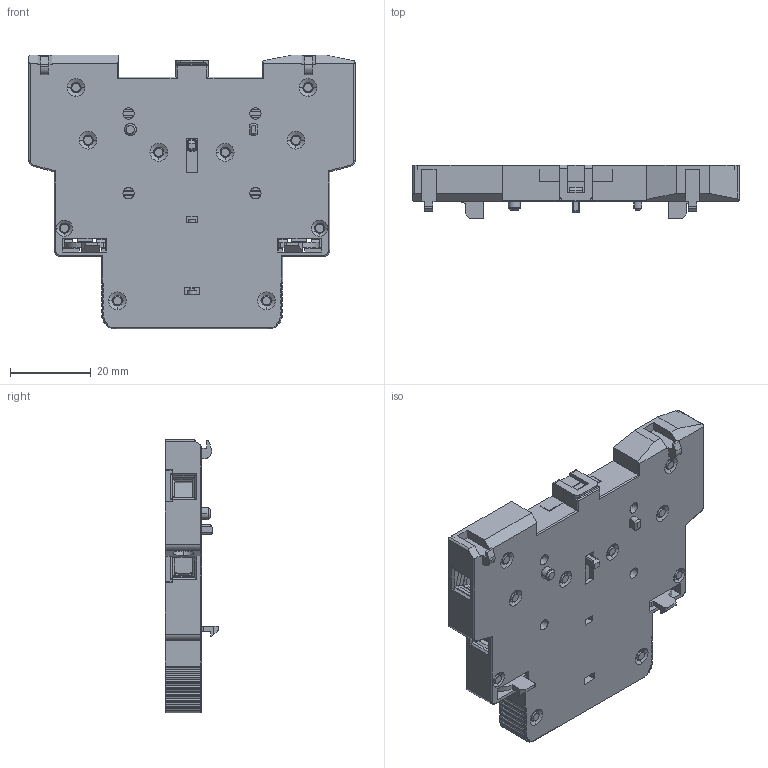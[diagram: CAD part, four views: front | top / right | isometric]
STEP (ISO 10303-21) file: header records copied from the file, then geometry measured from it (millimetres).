
FILE_DESCRIPTION (( 'STEP AP214' ), '1' );
FILE_NAME ('TGCH1N-AS11.STEP', '2026-05-19T08:48:40', ( '' ), ( '' ), 'SwSTEP 2.0', 'SolidWorks 2024', '' );
FILE_SCHEMA (( 'AUTOMOTIVE_DESIGN' ));
Length unit declared in the file: millimetre
Products named in the file (1): TGCH1N-AS11
Bounding box: 81 x 13.2 x 68 mm (x, y, z)
Volume: 17070.4 mm3; surface area: 30905.1 mm2
Topology: 1 solids, 1 shells, 2211 faces, 6247 edges, 4061 vertices
Faces by surface type: plane 1454, cylinder 415, cone 144, bspline 107, torus 65, sphere 26
Entity records: 84422 total; most frequent: CARTESIAN_POINT 27276, ORIENTED_EDGE 12468, DIRECTION 11184, EDGE_CURVE 6234, LINE 4340, VECTOR 4340, VERTEX_POINT 4057, AXIS2_PLACEMENT_3D 3422
